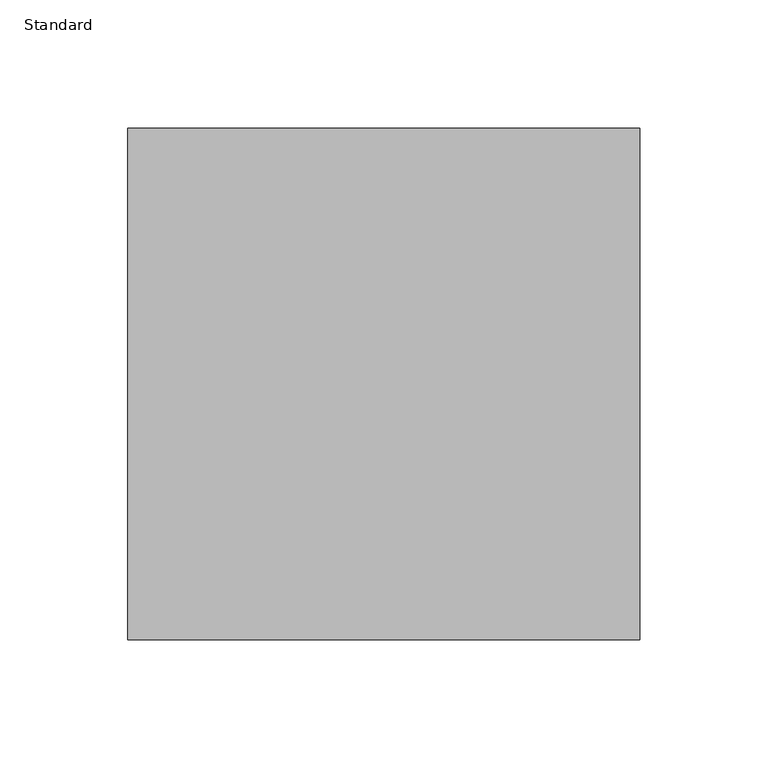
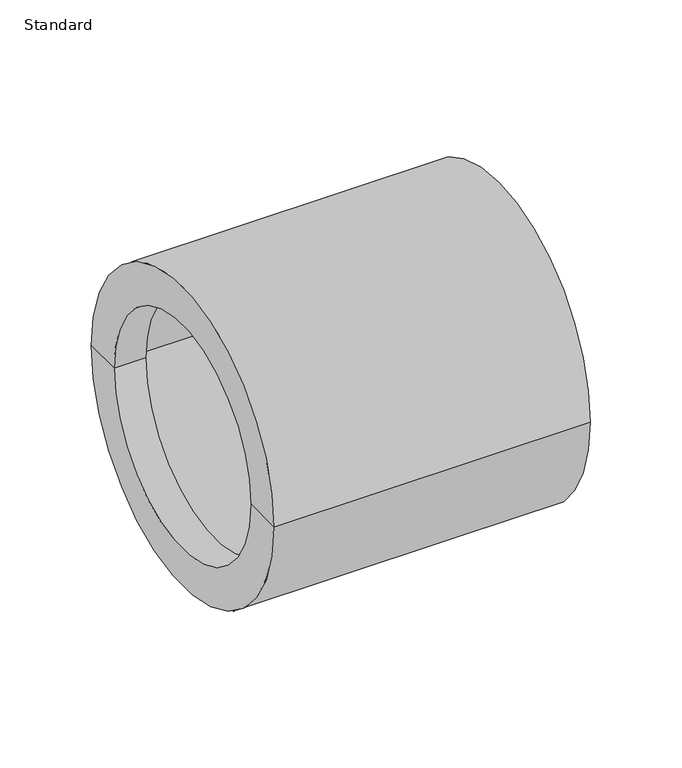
"""IFC4 building model written with IfcOpenShell, lengths in millimetres: pipe fitting geometry, Durapipe_PipeFitting_PVC_ReducingBush : Standard."""

import ifcopenshell
import ifcopenshell.guid

model = None  # the IFC model being written
_history = None  # IfcOwnerHistory: only IFC2X3 demands one
_inside = {}  # id of a spatial element -> (the spatial element, [elements in it])
_under = {}  # id of a project, library or spatial element -> (it, [spatial elements below it])
_declared = {}  # id of a project -> (the project, [libraries it declares])
_typed = {}  # id of a type object -> (the type object, [elements of that type])
_made_of = {}  # id of a material, layer set ... -> (it, [elements and type objects made of it])


def new_model(schema):
    """Start an empty IFC model of exactly this schema.

    Asked for "IFC4X3", IfcOpenShell would pick the latest addendum, in which some entities
    have other attributes; the version numbers below select the first issue.
    IFC2X3 requires an IfcOwnerHistory on every rooted entity: one is made here for all.
    """
    global model, _history
    if schema == "IFC4X3":
        model = ifcopenshell.file(schema_version=(4, 3, 0, 0))
    else:
        model = ifcopenshell.file(schema=schema)
    _inside.clear()
    _under.clear()
    _declared.clear()
    _typed.clear()
    _made_of.clear()
    _history = None
    if model.schema == "IFC2X3":
        org = make("IfcOrganization", Name="unknown")
        user = make(
            "IfcPersonAndOrganization",
            ThePerson=make("IfcPerson", FamilyName="unknown"),
            TheOrganization=org,
        )
        app = make(
            "IfcApplication",
            ApplicationDeveloper=org,
            Version="unknown",
            ApplicationFullName="unknown",
            ApplicationIdentifier="unknown",
        )
        _history = make(
            "IfcOwnerHistory",
            OwningUser=user,
            OwningApplication=app,
            ChangeAction="ADDED",
            CreationDate=0,
        )
    return model


def make(cls, **values):
    """One entity of the class cls with the attributes given. An attribute that is None is left unset."""
    return model.create_entity(
        cls, **{name: value for name, value in values.items() if value is not None}
    )


def rooted(cls, **values):
    """An entity with a GlobalId (a new one), such as an element, a storey or a relation."""
    return make(cls, GlobalId=ifcopenshell.guid.new(), OwnerHistory=_history, **values)


def si_unit(unit_type, name, prefix=None):
    """IfcSIUnit, for example si_unit("LENGTHUNIT", "METRE", prefix="MILLI")."""
    return make("IfcSIUnit", UnitType=unit_type, Prefix=prefix, Name=name)


def assignment(units):
    """IfcUnitAssignment: the units of a project."""
    return None if units is None else make("IfcUnitAssignment", Units=units)


def point(xyz):
    """IfcCartesianPoint."""
    return None if xyz is None else make("IfcCartesianPoint", Coordinates=xyz)


def direction(xyz):
    """IfcDirection."""
    return None if xyz is None else make("IfcDirection", DirectionRatios=xyz)


def frame(location, z_axis=None, x_axis=None):
    """IfcAxis2Placement3D, a coordinate frame: its origin and axes. An axis left out is left unset."""
    return make(
        "IfcAxis2Placement3D",
        Location=point(location),
        Axis=direction(z_axis),
        RefDirection=direction(x_axis),
    )


def origin():
    """The frame at (0, 0, 0) with its axes left unset."""
    return frame((0.0, 0.0, 0.0))


def place(relative_to, where):
    """IfcLocalPlacement: puts the frame where relative to a parent placement (None: the world)."""
    return make(
        "IfcLocalPlacement", PlacementRelTo=relative_to, RelativePlacement=where
    )


def context(
    kind, dimensions, precision=None, world=None, true_north=None, identifier=None
):
    """IfcGeometricRepresentationContext, for example the 3D "Model" context."""
    return make(
        "IfcGeometricRepresentationContext",
        ContextIdentifier=identifier,
        ContextType=kind,
        CoordinateSpaceDimension=dimensions,
        Precision=precision,
        WorldCoordinateSystem=world,
        TrueNorth=true_north,
    )


def project(units=None, contexts=None):
    """IfcProject with its units and contexts."""
    return rooted(
        "IfcProject",
        Name="project",
        RepresentationContexts=contexts,
        UnitsInContext=assignment(units),
    )


def spatial(cls, under=None, at=None, **own):
    """A site, building, storey or space (cls), placed at a placement, below another one or the project."""
    s = rooted(cls, ObjectPlacement=at, **own)
    if under is not None:
        _under.setdefault(under.id(), (under, []))[1].append(s)
    return s


def polyline(points):
    """IfcPolyline through the points."""
    return make("IfcPolyline", Points=[point(p) for p in points])


def circle_curve(where, radius):
    """IfcCircle in the frame where."""
    return make("IfcCircle", Position=where, Radius=radius)


def shape(context_of_items, identifier, shape_type, items):
    """IfcShapeRepresentation: the items that make up one representation, for example the "Body"."""
    return make(
        "IfcShapeRepresentation",
        ContextOfItems=context_of_items,
        RepresentationIdentifier=identifier,
        RepresentationType=shape_type,
        Items=items,
    )


def source(mapping_origin, context_of_items, identifier, shape_type, items):
    """IfcRepresentationMap: a shape defined once, which mapped items show again and again."""
    return make(
        "IfcRepresentationMap",
        MappingOrigin=mapping_origin,
        MappedRepresentation=shape(context_of_items, identifier, shape_type, items),
    )


def transform(
    local_origin,
    x_axis=None,
    y_axis=None,
    z_axis=None,
    scale=None,
    scale2=None,
    scale3=None,
    uniform=True,
):
    """IfcCartesianTransformationOperator3D, or its non-uniform kind. x_axis, y_axis, z_axis: its Axis1, 2, 3."""
    if uniform:
        return make(
            "IfcCartesianTransformationOperator3D",
            Axis1=direction(x_axis),
            Axis2=direction(y_axis),
            LocalOrigin=point(local_origin),
            Scale=scale,
            Axis3=direction(z_axis),
        )
    return make(
        "IfcCartesianTransformationOperator3DnonUniform",
        Axis1=direction(x_axis),
        Axis2=direction(y_axis),
        LocalOrigin=point(local_origin),
        Scale=scale,
        Axis3=direction(z_axis),
        Scale2=scale2,
        Scale3=scale3,
    )


def mapped(mapping_source, mapping_target):
    """IfcMappedItem: shows the shape of a source again, moved by a transform."""
    return make(
        "IfcMappedItem", MappingSource=mapping_source, MappingTarget=mapping_target
    )


def made_of(thing, what):
    """Note that an element or type object is made of a material, layer set ...; save() writes the relation."""
    if what is not None:
        _made_of.setdefault(what.id(), (what, []))[1].append(thing)
    return thing


def element(
    cls,
    number,
    at=None,
    inside=None,
    cuts=None,
    type_object=None,
    material=None,
    context=None,
    identifier="Body",
    shape_type=None,
    held_by="IfcProductDefinitionShape",
    body=None,
    shapes=None,
    **own,
):
    """One element of the class cls, such as IfcWall. Its Tag is "e" and its number.

    at: its placement. inside: the storey or other place that contains it. cuts: it is an
    opening in that element (IfcRelVoidsElement). A single representation is given by context,
    identifier, shape_type and body (its items); several are given by shapes. held_by: the class
    of the entity that holds the representations. save() writes the other relations.
    """
    e = rooted(cls, Tag="e%d" % number, ObjectPlacement=at, **own)
    if body is not None:
        shapes = [shape(context, identifier, shape_type, body)]
    if shapes is not None:
        e.Representation = make(held_by, Representations=shapes)
    if inside is not None:
        _inside.setdefault(inside.id(), (inside, []))[1].append(e)
    if cuts is not None:
        rooted(
            "IfcRelVoidsElement", RelatingBuildingElement=cuts, RelatedOpeningElement=e
        )
    if type_object is not None:
        _typed.setdefault(type_object.id(), (type_object, []))[1].append(e)
    return made_of(e, material)


def aggregate(whole, parts):
    """IfcRelAggregates: a whole, such as a stair, and the parts it consists of."""
    return rooted("IfcRelAggregates", RelatingObject=whole, RelatedObjects=parts)


def save(model, path):
    """Write the relations noted so far, then the file.

    IfcRelAggregates (storeys below a building ...), IfcRelContainedInSpatialStructure (elements
    in a storey), IfcRelDefinesByType, IfcRelAssociatesMaterial and IfcRelDeclares: one each for
    every whole, place, type object, material and project.
    """
    for whole, parts in _under.values():
        aggregate(whole, parts)
    for where, things in _inside.values():
        rooted(
            "IfcRelContainedInSpatialStructure",
            RelatedElements=things,
            RelatingStructure=where,
        )
    for kind, things in _typed.values():
        rooted("IfcRelDefinesByType", RelatedObjects=things, RelatingType=kind)
    for what, things in _made_of.values():
        rooted("IfcRelAssociatesMaterial", RelatedObjects=things, RelatingMaterial=what)
    for by, libraries in _declared.values():
        rooted("IfcRelDeclares", RelatingContext=by, RelatedDefinitions=libraries)
    model.write(path)


def plane_surface(at):
    """IfcPlane: the flat surface through the origin of the frame at, square to its z axis."""
    return make("IfcPlane", Position=at)


def cylinder_surface(at, radius):
    """IfcCylindricalSurface: all points at the distance radius from the z axis of the frame at."""
    return make("IfcCylindricalSurface", Position=at, Radius=radius)


def revolved_surface(curve, axis_point, axis_direction):
    """IfcSurfaceOfRevolution: the curve turned about the line through axis_point along axis_direction."""
    return make(
        "IfcSurfaceOfRevolution",
        SweptCurve=make("IfcArbitraryOpenProfileDef", ProfileType="CURVE", Curve=curve),
        AxisPosition=make("IfcAxis1Placement", Location=point(axis_point), Axis=direction(axis_direction)),
    )


def advanced_brep(points, edges, surfaces, faces):
    """IfcAdvancedBrep: a solid bounded by faces that lie on surfaces and meet in shared edges.

    An edge is (start, end): straight between two places in points (the first is 0);
    or (start, end, curve); or (start, end, curve, False) where it runs against its curve.
    A face is (place in surfaces, loops), or (place, loops, False) where it looks against
    its surface's normal. A loop lists edges by number (the first is 1), with a minus sign
    where the edge is run from its end to its start. The first loop is the outer one.
    """
    corners = [point(p) for p in points]
    vertices = [make("IfcVertexPoint", VertexGeometry=c) for c in corners]
    made = []
    for start, end, *more in edges:
        made.append(
            make(
                "IfcEdgeCurve",
                EdgeStart=vertices[start],
                EdgeEnd=vertices[end],
                EdgeGeometry=more[0] if more else make("IfcPolyline", Points=[corners[start], corners[end]]),
                SameSense=more[1] if len(more) > 1 else True,
            )
        )
    hull = []
    for where, loops, *sense in faces:
        bounds = []
        for j, loop in enumerate(loops):
            ring = [make("IfcOrientedEdge", EdgeElement=made[abs(k) - 1], Orientation=k > 0) for k in loop]
            bounds.append(
                make(
                    "IfcFaceOuterBound" if j == 0 else "IfcFaceBound",
                    Bound=make("IfcEdgeLoop", EdgeList=ring),
                    Orientation=True,
                )
            )
        hull.append(make("IfcAdvancedFace", Bounds=bounds, FaceSurface=surfaces[where], SameSense=sense[0] if sense else True))
    return make("IfcAdvancedBrep", Outer=make("IfcClosedShell", CfsFaces=hull))


def standard_d3fcaca8(model_context):
    return source(origin(), model_context, "Body", "AdvancedBrep", [
        advanced_brep(
        [(-20.0, -75.0, 0.0), (-20.0, 75.0, 0.0), (-20.0, 100.0, 0.0), (-20.0, -100.0, 0.0), (0.0, -75.0, 0.0), (0.0, 75.0, 0.0), (0.0, -80.0, 0.0), (0.0, 80.0, 0.0), (180.0, -80.0, 0.0), (180.0, 80.0, 0.0), (180.0, -100.0, 0.0), (180.0, 100.0, 0.0)],
        [
            (0, 1, circle_curve(frame((-20.0, 0.0, 0.0), z_axis=(1.0, 0.0, 0.0), x_axis=(0.0, 1.0, 0.0)), 75.0)),
            (1, 2),
            (2, 3, circle_curve(frame((-20.0, 0.0, 0.0), z_axis=(-1.0, 0.0, 0.0), x_axis=(0.0, 1.0, 0.0)), 100.0)),
            (3, 0),
            (1, 0, circle_curve(frame((-20.0, 0.0, 0.0), z_axis=(1.0, 0.0, 0.0), x_axis=(0.0, 1.0, 0.0)), 75.0)),
            (3, 2, circle_curve(frame((-20.0, 0.0, 0.0), z_axis=(-1.0, 0.0, 0.0), x_axis=(0.0, 1.0, 0.0)), 100.0)),
            (4, 5, circle_curve(frame((0.0, 0.0, 0.0), z_axis=(1.0, 0.0, 0.0), x_axis=(0.0, 1.0, 0.0)), 75.0)),
            (5, 1),
            (0, 4),
            (5, 4, circle_curve(frame((0.0, 0.0, 0.0), z_axis=(1.0, 0.0, 0.0), x_axis=(0.0, 1.0, 0.0)), 75.0)),
            (6, 7, circle_curve(frame((0.0, 0.0, 0.0), z_axis=(1.0, 0.0, 0.0), x_axis=(0.0, 1.0, 0.0)), 80.0)),
            (7, 5),
            (4, 6),
            (7, 6, circle_curve(frame((0.0, 0.0, 0.0), z_axis=(1.0, 0.0, 0.0), x_axis=(0.0, 1.0, 0.0)), 80.0)),
            (8, 9, circle_curve(frame((180.0, 0.0, 0.0), z_axis=(1.0, 0.0, 0.0), x_axis=(0.0, 1.0, 0.0)), 80.0)),
            (9, 7),
            (6, 8),
            (9, 8, circle_curve(frame((180.0, 0.0, 0.0), z_axis=(1.0, 0.0, 0.0), x_axis=(0.0, 1.0, 0.0)), 80.0)),
            (10, 11, circle_curve(frame((180.0, 0.0, 0.0), z_axis=(1.0, 0.0, 0.0), x_axis=(0.0, 1.0, 0.0)), 100.0)),
            (11, 9),
            (8, 10),
            (11, 10, circle_curve(frame((180.0, 0.0, 0.0), z_axis=(1.0, 0.0, 0.0), x_axis=(0.0, 1.0, 0.0)), 100.0)),
            (2, 11),
            (10, 3),
        ],
        [
            plane_surface(frame((-20.0, 0.0, 0.0), z_axis=(-1.0, 0.0, 0.0), x_axis=(0.0, 1.0, 0.0))),
            revolved_surface(polyline([(-20.0, 75.0, 0.0), (0.0, 75.0, 0.0)]), (2166.0, 0.0, 0.0), (-1.0, 0.0, 0.0)),
            plane_surface(frame((0.0, 0.0, 0.0), z_axis=(1.0, 0.0, 0.0), x_axis=(0.0, 1.0, 0.0))),
            revolved_surface(polyline([(0.0, 80.0, 0.0), (180.0, 80.0, 0.0)]), (2166.0, 0.0, 0.0), (-1.0, 0.0, 0.0)),
            plane_surface(frame((180.0, 0.0, 0.0), z_axis=(1.0, 0.0, 0.0), x_axis=(0.0, 1.0, 0.0))),
            cylinder_surface(frame((2166.0, 0.0, 0.0), z_axis=(-1.0, 0.0, 0.0), x_axis=(0.0, 1.0, 0.0)), 100.0),
        ],
        [
            (0, [[1, 2, 3, 4]]),
            (0, [[5, -4, 6, -2]]),
            (1, [[7, 8, -1, 9]]),
            (1, [[10, -9, -5, -8]]),
            (2, [[11, 12, -7, 13]]),
            (2, [[14, -13, -10, -12]]),
            (3, [[15, 16, -11, 17]]),
            (3, [[18, -17, -14, -16]]),
            (4, [[19, 20, -15, 21]]),
            (4, [[22, -21, -18, -20]]),
            (5, [[-3, 23, -19, 24]]),
            (5, [[-6, -24, -22, -23]]),
        ],
    ),
    ])


if __name__ == "__main__":
    model = new_model("IFC4")
    model_context = context("Model", 3, world=origin())
    ifc_project = project(units=[si_unit("LENGTHUNIT", "METRE", prefix="MILLI")], contexts=[model_context])
    site = spatial("IfcSite", under=ifc_project)
    building = spatial("IfcBuilding", under=site)
    placement = place(None, origin())
    standard_shape = standard_d3fcaca8(model_context)
    element("IfcPipeFitting", 1, ObjectType="Durapipe_PipeFitting_PVC_ReducingBush : Standard", at=placement, inside=building, context=model_context, shape_type="MappedRepresentation", body=[
        mapped(standard_shape, transform((0.0, 0.0, 0.0), x_axis=(1.0, 0.0, 0.0), y_axis=(0.0, 1.0, 0.0), z_axis=(0.0, 0.0, 1.0))),
    ])
    save(model, "model.ifc")
